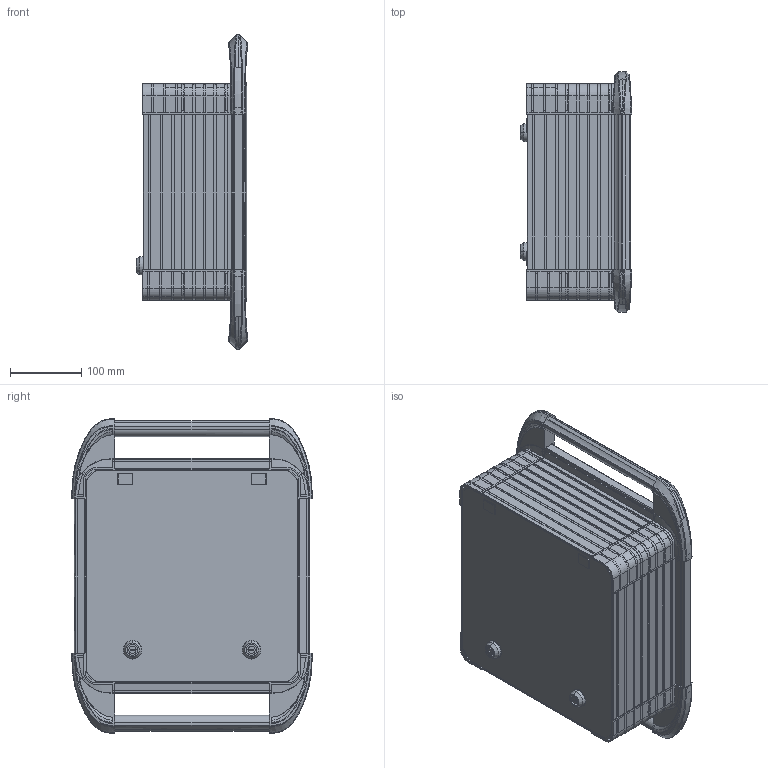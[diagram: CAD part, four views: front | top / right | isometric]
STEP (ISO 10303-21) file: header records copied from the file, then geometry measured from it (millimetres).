
FILE_DESCRIPTION (( 'STEP AP214' ), '1' );
FILE_NAME ('KL-1-130-230-230.step', '2019-10-03T05:04:05', ( 'IT Division' ), ( 'IT' ), 'SwSTEP 2.0', 'SolidWorks 2016', '' );
FILE_SCHEMA (( 'AUTOMOTIVE_DESIGN' ));
Length unit declared in the file: millimetre
Products named in the file (1): KL-1-130-230-230
Bounding box: 156.34 x 337.27 x 441.68 mm (x, y, z)
Volume: 1976065.4 mm3; surface area: 1135269.3 mm2
Topology: 4 solids, 8 shells, 4279 faces, 12136 edges, 7846 vertices
Faces by surface type: plane 1924, cylinder 1088, bspline 1041, cone 174, sphere 44, torus 8
Entity records: 320775 total; most frequent: CARTESIAN_POINT 175596, ORIENTED_EDGE 24192, DIRECTION 15151, EDGE_CURVE 12096, VERTEX_POINT 7826, VECTOR 6313, LINE 6313, B_SPLINE_CURVE_WITH_KNOTS 4507
